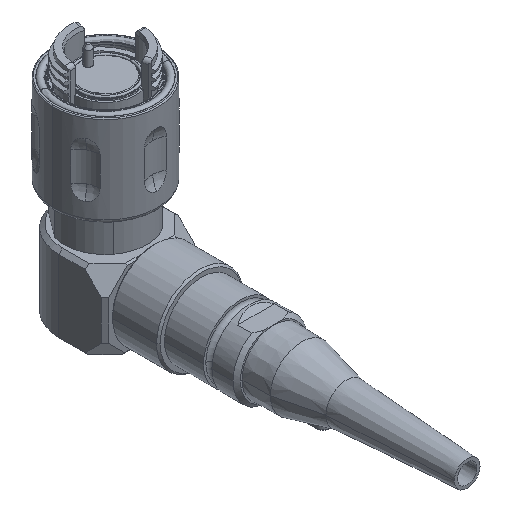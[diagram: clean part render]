
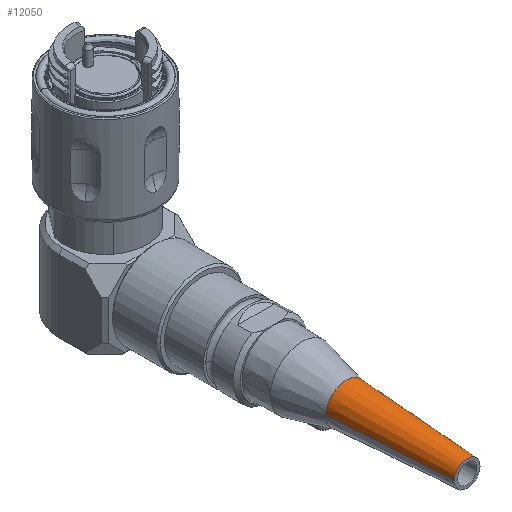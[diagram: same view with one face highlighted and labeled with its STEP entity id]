
A CAD part, isometric view. The second image highlights one B-rep face of the part: STEP entity #12050.
In plain terms, the highlighted conical face has half-angle 3.468 degrees and reference radius 3.5 mm.
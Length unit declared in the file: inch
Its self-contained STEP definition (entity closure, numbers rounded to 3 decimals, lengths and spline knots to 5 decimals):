
#165 = CARTESIAN_POINT ( 'NONE',  ( 0.1378, -3.87907, -2.02457 ) ) ;
#218 = EDGE_CURVE ( 'NONE', #6458, #10916, #10451, .T. ) ;
#386 = ORIENTED_EDGE ( 'NONE', *, *, #7714, .T. ) ;
#583 = DIRECTION ( 'NONE',  ( 0., 1., 0. ) ) ;
#851 = VECTOR ( 'NONE', #3795, 39.37008 ) ;
#1111 = DIRECTION ( 'NONE',  ( 0., 1., 0. ) ) ;
#1570 = LINE ( 'NONE', #6148, #14293 ) ;
#1764 = ORIENTED_EDGE ( 'NONE', *, *, #218, .T. ) ;
#2160 = CARTESIAN_POINT ( 'NONE',  ( 0., -3.87907, -2.02457 ) ) ;
#2613 = EDGE_LOOP ( 'NONE', ( #7299, #386, #1764, #3809 ) ) ;
#2892 = CONICAL_SURFACE ( 'NONE', #10793, 0.1378, 0.061 ) ;
#3211 = DIRECTION ( 'NONE',  ( 0., 1., 0. ) ) ;
#3795 = DIRECTION ( 'NONE',  ( 0.06, 0.998, 0. ) ) ;
#3809 = ORIENTED_EDGE ( 'NONE', *, *, #11752, .F. ) ;
#3901 = DIRECTION ( 'NONE',  ( 1., 0., 0. ) ) ;
#5174 = DIRECTION ( 'NONE',  ( 1., 0., 0. ) ) ;
#5599 = CARTESIAN_POINT ( 'NONE',  ( -0.21654, -2.57986, -2.02457 ) ) ;
#5714 = AXIS2_PLACEMENT_3D ( 'NONE', #6310, #583, #5174 ) ;
#5873 = CARTESIAN_POINT ( 'NONE',  ( 0.21654, -2.57986, -2.02457 ) ) ;
#6148 = CARTESIAN_POINT ( 'NONE',  ( -0.1378, -3.87907, -2.02457 ) ) ;
#6310 = CARTESIAN_POINT ( 'NONE',  ( 0., -2.57986, -2.02457 ) ) ;
#6422 = VERTEX_POINT ( 'NONE', #8601 ) ;
#6458 = VERTEX_POINT ( 'NONE', #13451 ) ;
#6661 = DIRECTION ( 'NONE',  ( 1., 0., 0. ) ) ;
#6820 = EDGE_CURVE ( 'NONE', #6422, #14537, #1570, .T. ) ;
#7299 = ORIENTED_EDGE ( 'NONE', *, *, #6820, .F. ) ;
#7631 = CIRCLE ( 'NONE', #5714, 0.21654 ) ;
#7714 = EDGE_CURVE ( 'NONE', #6422, #6458, #13317, .T. ) ;
#7935 = FACE_OUTER_BOUND ( 'NONE', #2613, .T. ) ;
#8601 = CARTESIAN_POINT ( 'NONE',  ( -0.1378, -3.87907, -2.02457 ) ) ;
#10451 = LINE ( 'NONE', #165, #851 ) ;
#10793 = AXIS2_PLACEMENT_3D ( 'NONE', #12522, #1111, #3901 ) ;
#10916 = VERTEX_POINT ( 'NONE', #5873 ) ;
#11752 = EDGE_CURVE ( 'NONE', #14537, #10916, #7631, .T. ) ;
#12050 = ADVANCED_FACE ( 'NONE', ( #7935 ), #2892, .T. ) ;
#12073 = DIRECTION ( 'NONE',  ( -0.06, 0.998, 0. ) ) ;
#12522 = CARTESIAN_POINT ( 'NONE',  ( 0., -3.87907, -2.02457 ) ) ;
#13317 = CIRCLE ( 'NONE', #14313, 0.1378 ) ;
#13451 = CARTESIAN_POINT ( 'NONE',  ( 0.1378, -3.87907, -2.02457 ) ) ;
#14293 = VECTOR ( 'NONE', #12073, 39.37008 ) ;
#14313 = AXIS2_PLACEMENT_3D ( 'NONE', #2160, #3211, #6661 ) ;
#14537 = VERTEX_POINT ( 'NONE', #5599 ) ;
